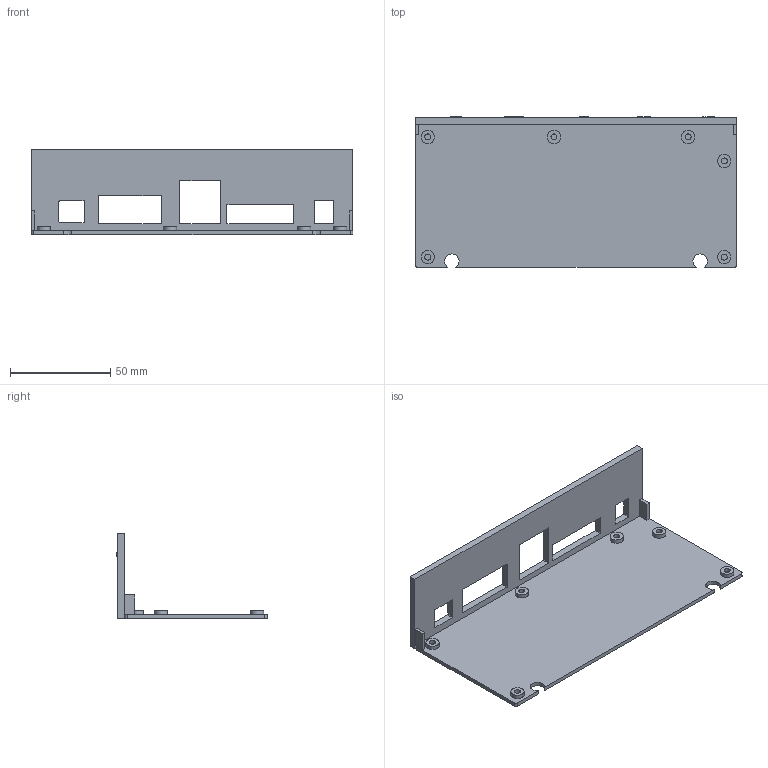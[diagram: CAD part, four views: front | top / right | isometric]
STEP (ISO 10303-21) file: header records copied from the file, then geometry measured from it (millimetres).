
FILE_DESCRIPTION(('Open CASCADE Model'),'2;1');
FILE_NAME('Open CASCADE Shape Model','2026-11-07T16:35:57',('Author'),( 'Open CASCADE'),'Open CASCADE STEP processor 7.9','Open CASCADE 7.9' ,'Unknown');
FILE_SCHEMA(('AUTOMOTIVE_DESIGN { 1 0 10303 214 1 1 1 1 }'));
Length unit declared in the file: millimetre
Products named in the file (1): Open CASCADE STEP translator 7.9 8
Bounding box: 160.4 x 75 x 42.5 mm (x, y, z)
Volume: 41817.5 mm3; surface area: 37544.2 mm2
Topology: 1 solids, 1 shells, 374 faces, 1007 edges, 670 vertices
Faces by surface type: plane 220, extrusion 116, cylinder 38
Full cylindrical faces by diameter (mm): 3 x6, 6.6 x6
Entity records: 24847 total; most frequent: CARTESIAN_POINT 5444, DIRECTION 3146, VECTOR 2413, LINE 2297, ORIENTED_EDGE 2014, PCURVE 2014, DEFINITIONAL_REPRESENTATION 2014, EDGE_CURVE 1007
